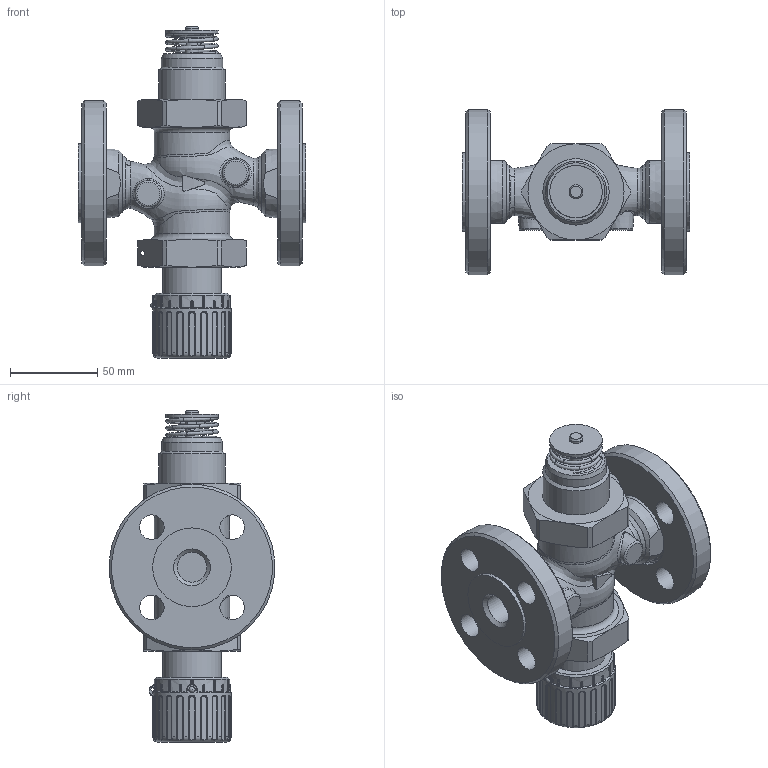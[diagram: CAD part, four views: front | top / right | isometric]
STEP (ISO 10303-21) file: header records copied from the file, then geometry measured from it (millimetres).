
FILE_DESCRIPTION(/* description */ (''),/* implementation_level */ '2;1');
FILE_NAME(/* name */ 'rv122p_dn15_F.stp',/* time_stamp */ '2012-11-05T15:53:02+01:00',/* author */ ('JENIK'),/* organization */ ('LDM'),/* preprocessor_version */ 'ST-DEVELOPER v11',/* originating_system */ 'SIEMENS PLM Software NX 7.0',/* authorisation */ '');
FILE_SCHEMA (('CONFIG_CONTROL_DESIGN'));
Length unit declared in the file: millimetre
Products named in the file (1): jeniA85B0dwa
Bounding box: 130 x 94.64 x 190 mm (x, y, z)
Volume: 181456.1 mm3; surface area: 88552.5 mm2
Topology: 2 solids, 3 shells, 603 faces, 1483 edges, 910 vertices
Faces by surface type: cylinder 214, plane 149, bspline 107, torus 72, cone 60, sphere 1
Full cylindrical faces by diameter (mm): 2 x1, 2.5 x1, 8 x2, 14 x8, 17 x2, 24.5 x1, 30 x1, 30.291 x2, 33.249 x2, 33.5 x2, 33.8 x1, 35 x1, 37 x1, 38 x1, 43 x3, 45 x2, 95 x2
Entity records: 28174 total; most frequent: CARTESIAN_POINT 15403, ORIENTED_EDGE 2680, DIRECTION 2452, EDGE_CURVE 1340, AXIS2_PLACEMENT_3D 1036, VERTEX_POINT 862, EDGE_LOOP 744, ADVANCED_FACE 601
